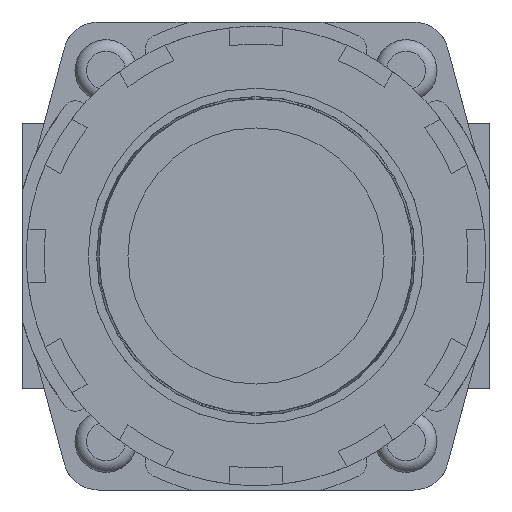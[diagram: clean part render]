
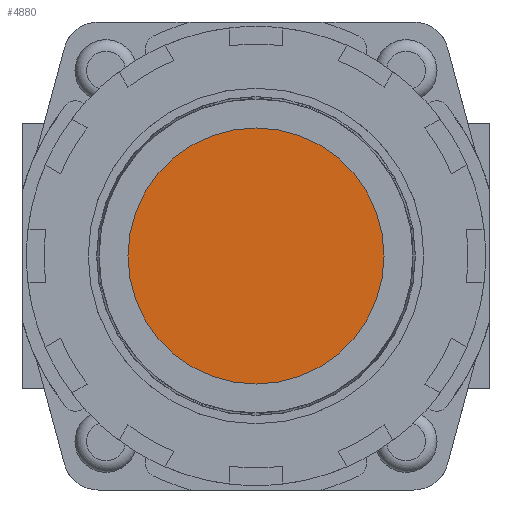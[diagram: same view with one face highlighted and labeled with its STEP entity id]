
A CAD part, front view. The second image highlights one B-rep face of the part: STEP entity #4880.
In plain terms, the highlighted planar face has unit normal (0, -1, 0).
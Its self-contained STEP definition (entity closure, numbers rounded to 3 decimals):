
#232=CIRCLE('',#5274,14.5);
#1127=ORIENTED_EDGE('',*,*,#2128,.T.);
#2128=EDGE_CURVE('',#2695,#2695,#232,.T.);
#2695=VERTEX_POINT('',#7838);
#4041=EDGE_LOOP('',(#1127));
#4383=FACE_BOUND('',#4041,.T.);
#4649=PLANE('',#5275);
#4880=ADVANCED_FACE('',(#4383),#4649,.F.);
#5274=AXIS2_PLACEMENT_3D('',#7837,#6332,#6333);
#5275=AXIS2_PLACEMENT_3D('',#7839,#6334,#6335);
#6332=DIRECTION('',(0.,-1.,0.));
#6333=DIRECTION('',(0.,0.,-1.));
#6334=DIRECTION('',(0.,1.,0.));
#6335=DIRECTION('',(0.,0.,1.));
#7837=CARTESIAN_POINT('',(0.,-86.5,0.));
#7838=CARTESIAN_POINT('',(0.,-86.5,-14.5));
#7839=CARTESIAN_POINT('',(14.5,-86.5,0.));
